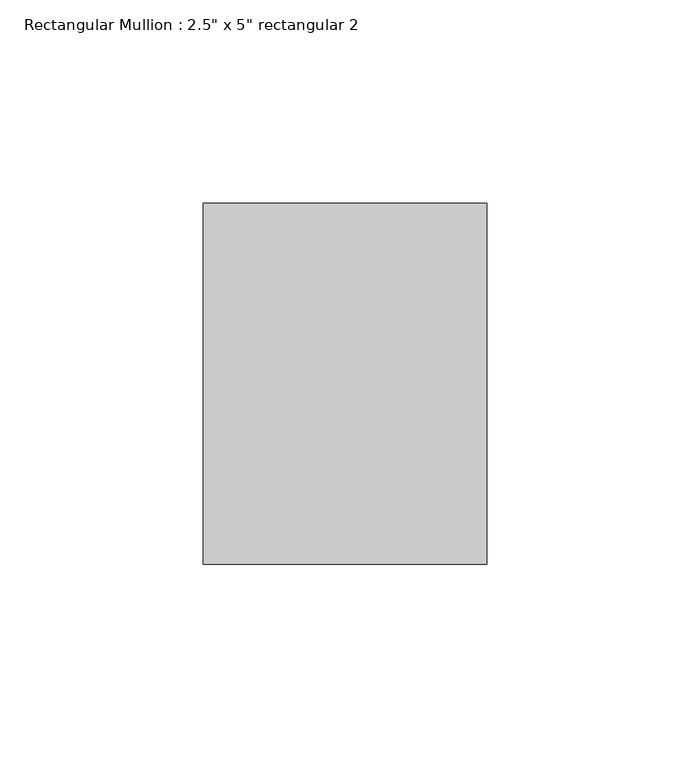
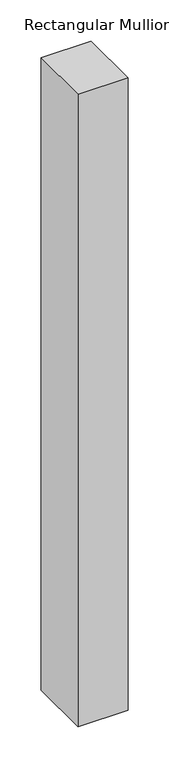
"""IFC4 building model written with IfcOpenShell, lengths in millimetres: member geometry."""

from ifc_helpers import new_model, si_unit, frame, origin, place, context, project, spatial, polyline, outline, extrude, source, transform, mapped, element, save


def member_2e701646(model_context):
    return source(origin(), model_context, "Body", "SweptSolid", [
        extrude(outline(polyline([(0.0, 44.45), (0.0, -44.45), (-69.85, -44.45), (-69.85, 44.45), (0.0, 44.45)])), frame((0.0, 0.0, -933.2249378), z_axis=(0.0, 0.0, 1.0), x_axis=(1.0, 0.0, 0.0)), (0.0, 0.0, 1.0), 933.2249378),
    ])


if __name__ == "__main__":
    model = new_model("IFC4")
    model_context = context("Model", 3, world=origin())
    ifc_project = project(units=[si_unit("LENGTHUNIT", "METRE", prefix="MILLI")], contexts=[model_context])
    site = spatial("IfcSite", under=ifc_project)
    building = spatial("IfcBuilding", under=site)
    placement = place(None, origin())
    member_shape = member_2e701646(model_context)
    element("IfcMember", 1, ObjectType="Rectangular Mullion : 2.5\" x 5\" rectangular 2", at=placement, inside=building, context=model_context, shape_type="MappedRepresentation", body=[
        mapped(member_shape, transform((0.0, 0.0, 0.0), x_axis=(1.0, 0.0, 0.0), y_axis=(0.0, 1.0, 0.0), z_axis=(0.0, 0.0, 1.0))),
    ])
    save(model, "model.ifc")
